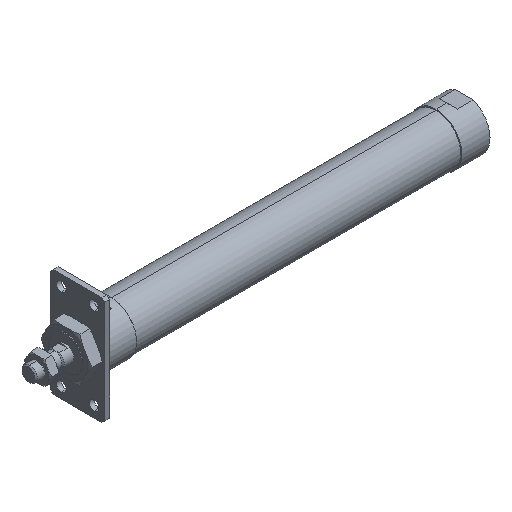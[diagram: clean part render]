
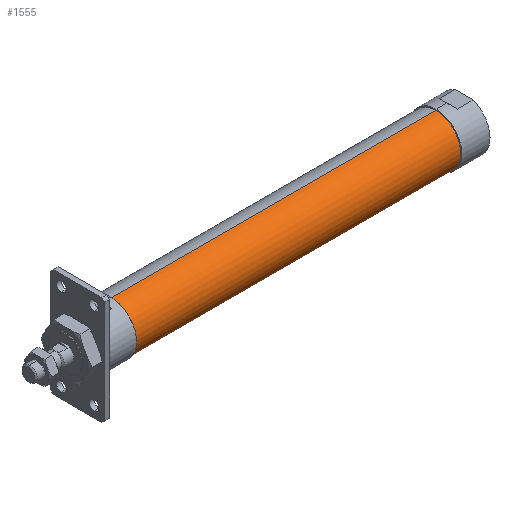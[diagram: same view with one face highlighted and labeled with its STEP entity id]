
A CAD part, isometric view. The second image highlights one B-rep face of the part: STEP entity #1555.
In plain terms, the highlighted cylindrical face has radius 23 mm (diameter 46 mm), a partial arc.
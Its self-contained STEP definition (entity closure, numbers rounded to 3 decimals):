
#106 = EDGE_CURVE ( 'NONE', #3916, #1832, #2447, .T. ) ;
#109 = CARTESIAN_POINT ( 'NONE',  ( 377., 0., 23. ) ) ;
#170 = ORIENTED_EDGE ( 'NONE', *, *, #3003, .T. ) ;
#265 = DIRECTION ( 'NONE',  ( -1., 0., 0. ) ) ;
#336 = ORIENTED_EDGE ( 'NONE', *, *, #3774, .F. ) ;
#454 = CARTESIAN_POINT ( 'NONE',  ( -1.784, 0., 23. ) ) ;
#693 = EDGE_CURVE ( 'NONE', #2889, #3785, #2200, .T. ) ;
#862 = VECTOR ( 'NONE', #3610, 1000. ) ;
#865 = DIRECTION ( 'NONE',  ( 0., 0., 1. ) ) ;
#1407 = ORIENTED_EDGE ( 'NONE', *, *, #693, .F. ) ;
#1476 = CYLINDRICAL_SURFACE ( 'NONE', #3837, 23. ) ;
#1491 = LINE ( 'NONE', #2920, #2432 ) ;
#1519 = LINE ( 'NONE', #454, #862 ) ;
#1550 = DIRECTION ( 'NONE',  ( 0., 0., 1. ) ) ;
#1555 = ADVANCED_FACE ( 'NONE', ( #1990 ), #1476, .T. ) ;
#1567 = DIRECTION ( 'NONE',  ( -1., 0., 0. ) ) ;
#1570 = AXIS2_PLACEMENT_3D ( 'NONE', #1883, #1567, #1550 ) ;
#1610 = CARTESIAN_POINT ( 'NONE',  ( 377., 0., -23. ) ) ;
#1614 = CARTESIAN_POINT ( 'NONE',  ( 76., 0., 23. ) ) ;
#1832 = VERTEX_POINT ( 'NONE', #109 ) ;
#1883 = CARTESIAN_POINT ( 'NONE',  ( 76., 0., 0. ) ) ;
#1990 = FACE_OUTER_BOUND ( 'NONE', #2033, .T. ) ;
#2033 = EDGE_LOOP ( 'NONE', ( #336, #3269, #170, #1407 ) ) ;
#2200 = CIRCLE ( 'NONE', #1570, 23. ) ;
#2432 = VECTOR ( 'NONE', #2514, 1000. ) ;
#2447 = CIRCLE ( 'NONE', #3007, 23. ) ;
#2514 = DIRECTION ( 'NONE',  ( -1., 0., 0. ) ) ;
#2617 = CARTESIAN_POINT ( 'NONE',  ( 76., 0., -23. ) ) ;
#2889 = VERTEX_POINT ( 'NONE', #2617 ) ;
#2920 = CARTESIAN_POINT ( 'NONE',  ( -1.784, 0., -23. ) ) ;
#3003 = EDGE_CURVE ( 'NONE', #1832, #3785, #1519, .T. ) ;
#3007 = AXIS2_PLACEMENT_3D ( 'NONE', #3738, #3091, #4069 ) ;
#3091 = DIRECTION ( 'NONE',  ( -1., 0., 0. ) ) ;
#3269 = ORIENTED_EDGE ( 'NONE', *, *, #106, .T. ) ;
#3437 = CARTESIAN_POINT ( 'NONE',  ( -1.784, 0., 0. ) ) ;
#3610 = DIRECTION ( 'NONE',  ( -1., 0., 0. ) ) ;
#3738 = CARTESIAN_POINT ( 'NONE',  ( 377., 0., 0. ) ) ;
#3774 = EDGE_CURVE ( 'NONE', #3916, #2889, #1491, .T. ) ;
#3785 = VERTEX_POINT ( 'NONE', #1614 ) ;
#3837 = AXIS2_PLACEMENT_3D ( 'NONE', #3437, #265, #865 ) ;
#3916 = VERTEX_POINT ( 'NONE', #1610 ) ;
#4069 = DIRECTION ( 'NONE',  ( 0., 0., 1. ) ) ;
